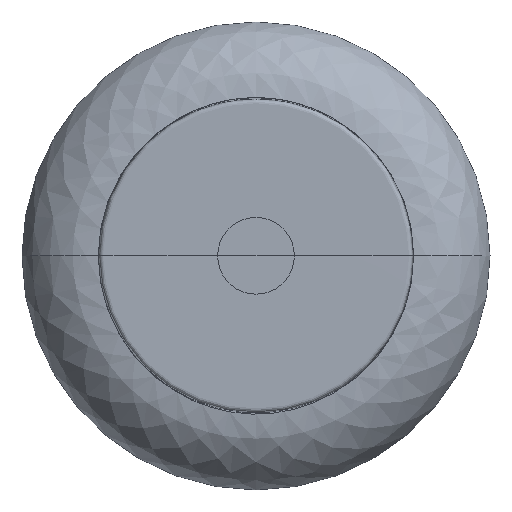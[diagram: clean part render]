
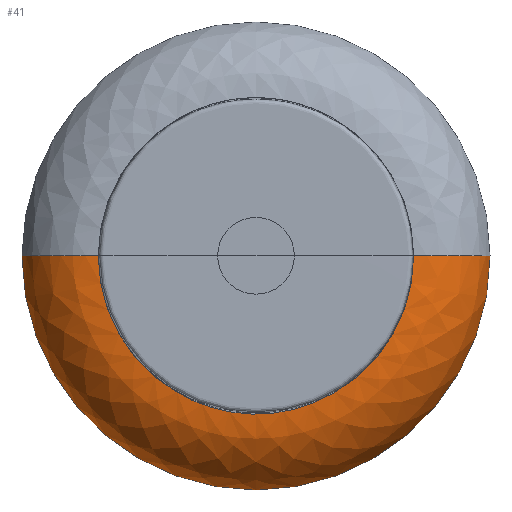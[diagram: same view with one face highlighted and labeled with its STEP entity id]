
A CAD part, top view. The second image highlights one B-rep face of the part: STEP entity #41.
In plain terms, the highlighted free-form (B-spline) face has degree [2, 2] with [3, 5] control points.
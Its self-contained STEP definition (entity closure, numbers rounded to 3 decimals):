
#41=ADVANCED_FACE('',(#72),#467,.T.);
#72=FACE_OUTER_BOUND('',#103,.T.);
#103=EDGE_LOOP('',(#150,#151,#152,#153));
#150=ORIENTED_EDGE('',*,*,#274,.T.);
#151=ORIENTED_EDGE('',*,*,#275,.T.);
#152=ORIENTED_EDGE('',*,*,#276,.T.);
#153=ORIENTED_EDGE('',*,*,#277,.T.);
#274=EDGE_CURVE('',#429,#430,#335,.T.);
#275=EDGE_CURVE('',#430,#431,#336,.T.);
#276=EDGE_CURVE('',#431,#432,#337,.T.);
#277=EDGE_CURVE('',#432,#429,#338,.T.);
#335=TRIMMED_CURVE($,#369,(#1889),(#1890),.T.,.CARTESIAN.);
#336=TRIMMED_CURVE($,#370,(#1892),(#1893),.T.,.CARTESIAN.);
#337=TRIMMED_CURVE($,#371,(#1895),(#1896),.T.,.CARTESIAN.);
#338=TRIMMED_CURVE($,#372,(#1898),(#1899),.T.,.CARTESIAN.);
#369=CIRCLE('',#584,106.014);
#370=CIRCLE('',#585,305.198);
#371=CIRCLE('',#586,106.014);
#372=CIRCLE('',#587,205.638);
#429=VERTEX_POINT('',#1856);
#430=VERTEX_POINT('',#1857);
#431=VERTEX_POINT('',#1858);
#432=VERTEX_POINT('',#1859);
#467=(
BOUNDED_SURFACE()
B_SPLINE_SURFACE(2,2,((#1422,#1423,#1424,#1425,#1426),(#1427,#1428,#1429,
#1430,#1431),(#1432,#1433,#1434,#1435,#1436)),.UNSPECIFIED.,.F.,.F.,.F.)
B_SPLINE_SURFACE_WITH_KNOTS((3,3),(3,2,3),(1041.682,1179.146),
(0.,479.405,958.809),.UNSPECIFIED.)
GEOMETRIC_REPRESENTATION_ITEM()
RATIONAL_B_SPLINE_SURFACE(((1.,0.707,1.,0.707,1.),
(0.797,0.564,0.797,0.564,
0.797),(1.,0.707,1.,0.707,1.)))
REPRESENTATION_ITEM('')
SURFACE()
);
#584=AXIS2_PLACEMENT_3D($,#1888,#633,#634);
#585=AXIS2_PLACEMENT_3D($,#1891,#635,#636);
#586=AXIS2_PLACEMENT_3D($,#1894,#637,#638);
#587=AXIS2_PLACEMENT_3D($,#1897,#639,#640);
#633=DIRECTION('',(0.,-1.,0.));
#634=DIRECTION('',(-0.032,0.,1.));
#635=DIRECTION('',(0.,0.,1.));
#636=DIRECTION('',(-1.,0.,0.));
#637=DIRECTION('',(0.,-1.,0.));
#638=DIRECTION('',(0.971,0.,0.24));
#639=DIRECTION('',(0.,0.,-1.));
#640=DIRECTION('',(1.,0.,0.));
#1422=CARTESIAN_POINT('',(315.188,0.,85.478));
#1423=CARTESIAN_POINT('',(315.188,-205.638,85.478));
#1424=CARTESIAN_POINT('',(520.826,-205.638,85.478));
#1425=CARTESIAN_POINT('',(726.464,-205.638,85.478));
#1426=CARTESIAN_POINT('',(726.464,0.,85.478));
#1427=CARTESIAN_POINT('',(234.915,0.,82.94));
#1428=CARTESIAN_POINT('',(234.915,-285.911,82.94));
#1429=CARTESIAN_POINT('',(520.826,-285.911,82.94));
#1430=CARTESIAN_POINT('',(806.737,-285.911,82.94));
#1431=CARTESIAN_POINT('',(806.737,0.,82.94));
#1432=CARTESIAN_POINT('',(215.628,0.,4.977));
#1433=CARTESIAN_POINT('',(215.628,-305.198,4.977));
#1434=CARTESIAN_POINT('',(520.826,-305.198,4.977));
#1435=CARTESIAN_POINT('',(826.024,-305.198,4.977));
#1436=CARTESIAN_POINT('',(826.024,0.,4.977));
#1856=CARTESIAN_POINT('',(315.188,0.,85.478));
#1857=CARTESIAN_POINT('',(215.628,0.,4.977));
#1858=CARTESIAN_POINT('',(826.024,0.,4.977));
#1859=CARTESIAN_POINT('',(726.464,0.,85.478));
#1888=CARTESIAN_POINT('',(318.539,0.,-20.482));
#1889=CARTESIAN_POINT('',(315.188,0.,85.478));
#1890=CARTESIAN_POINT('',(215.628,0.,4.977));
#1891=CARTESIAN_POINT('',(520.826,0.,4.977));
#1892=CARTESIAN_POINT('',(215.628,0.,4.977));
#1893=CARTESIAN_POINT('',(826.024,0.,4.977));
#1894=CARTESIAN_POINT('',(723.113,0.,-20.482));
#1895=CARTESIAN_POINT('',(826.024,0.,4.977));
#1896=CARTESIAN_POINT('',(726.464,0.,85.478));
#1897=CARTESIAN_POINT('',(520.826,0.,85.478));
#1898=CARTESIAN_POINT('',(726.464,0.,85.478));
#1899=CARTESIAN_POINT('',(315.188,0.,85.478));
